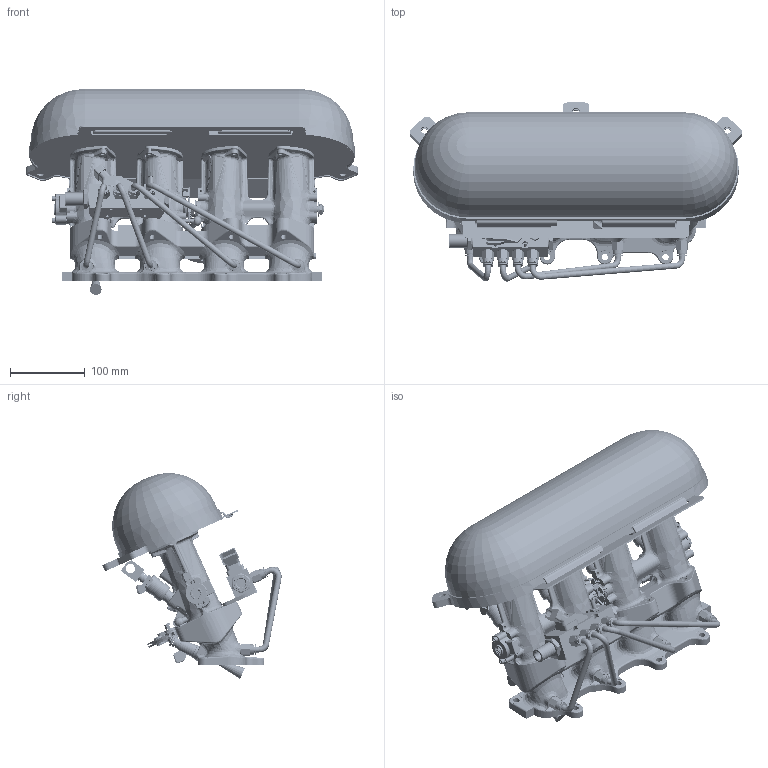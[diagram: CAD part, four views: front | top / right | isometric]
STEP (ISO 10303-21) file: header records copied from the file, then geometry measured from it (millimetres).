
FILE_DESCRIPTION (( 'STEP AP203' ), '1' );
FILE_NAME ('ITB Mazda MX-5 Miata NA 1.6.STEP', '2025-03-13T20:31:01', ( '' ), ( '' ), 'SwSTEP 2.0', 'SolidWorks 2019', '' );
FILE_SCHEMA (( 'CONFIG_CONTROL_DESIGN' ));
Length unit declared in the file: millimetre
Products named in the file (1): ITB Mazda MX-5 Miata NA 1.6
Bounding box: 444.81 x 240.18 x 275.59 mm (x, y, z)
Surface area: 700049.9 mm2 (no closed solid volume)
Topology: 0 solids, 173 shells, 3443 faces, 10901 edges, 7176 vertices
Faces by surface type: cylinder 1064, bspline 1006, plane 831, cone 266, torus 249, sphere 27
Entity records: 197279 total; most frequent: CARTESIAN_POINT 111070, ORIENTED_EDGE 17778, DIRECTION 16424, EDGE_CURVE 10825, VERTEX_POINT 7172, AXIS2_PLACEMENT_3D 6557, CIRCLE 4119, EDGE_LOOP 3782
